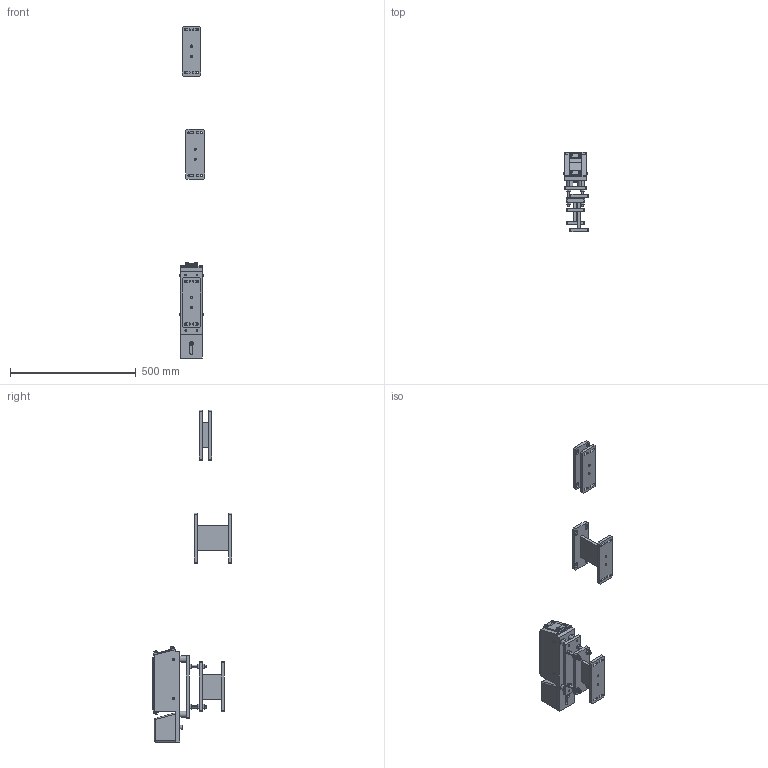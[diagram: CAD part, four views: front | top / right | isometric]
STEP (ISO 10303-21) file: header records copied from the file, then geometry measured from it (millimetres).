
FILE_DESCRIPTION (( 'STEP AP203' ), '1' );
FILE_NAME ('ZY200 假蚾芞.STEP', '2023-09-03T06:54:25', ( '' ), ( '' ), 'SwSTEP 2.0', 'SolidWorks 2022', '' );
FILE_SCHEMA (( 'CONFIG_CONTROL_DESIGN' ));
Length unit declared in the file: millimetre
Products named in the file (1): ZY200  假蚾芞
Bounding box: 100 x 317.6 x 1320.01 mm (x, y, z)
Volume: 4750420 mm3; surface area: 603877.6 mm2
Topology: 36 solids, 40 shells, 902 faces, 2221 edges, 1419 vertices
Faces by surface type: plane 496, cylinder 258, cone 120, bspline 28
Entity records: 28424 total; most frequent: CARTESIAN_POINT 6937, ORIENTED_EDGE 4394, DIRECTION 4383, EDGE_CURVE 2197, AXIS2_PLACEMENT_3D 1565, VERTEX_POINT 1419, LINE 1253, VECTOR 1253
